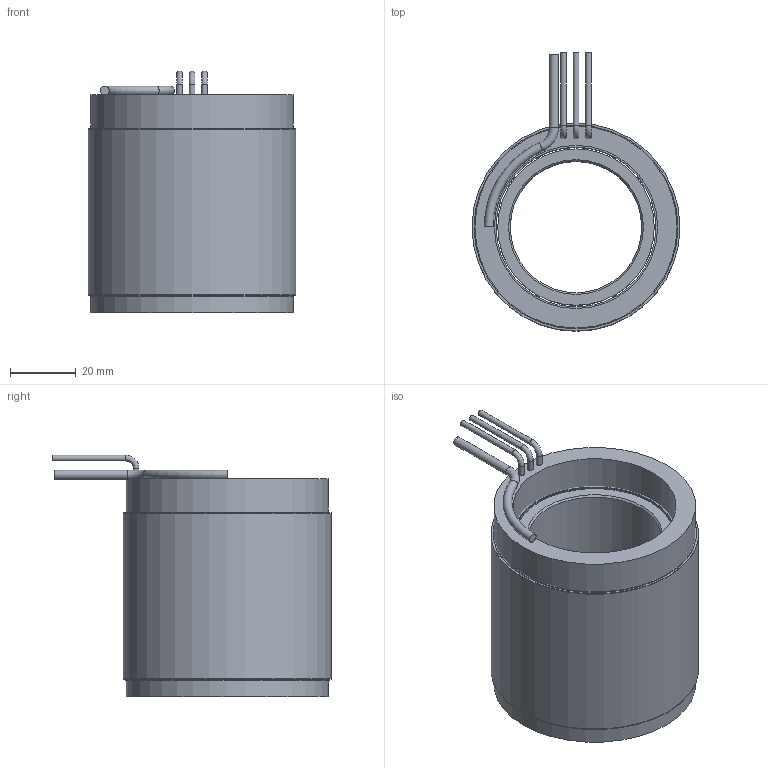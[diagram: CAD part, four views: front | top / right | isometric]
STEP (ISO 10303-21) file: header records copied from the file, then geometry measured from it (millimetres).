
FILE_DESCRIPTION (( 'STEP AP214' ), '1' );
FILE_NAME ('6100391-06.STEP', '2020-12-15T02:42:49', ( '' ), ( '' ), 'SwSTEP 2.0', 'SolidWorks 2016', '' );
FILE_SCHEMA (( 'AUTOMOTIVE_DESIGN' ));
Length unit declared in the file: inch
Products named in the file (10): 4400101-00; 4250379-XX_4250379-06; 4450189-XX_4450189-06; 4150178-XX_4150178-06; 6100391-06; COMP4500558-XX(COIL)_COMP4500558-06(COIL); 4500558-XX_4500558-06; 4600565-00
Assembly tree (10 placements, depth 4):
  6100391-06
    4250379-XX_4250379-06
      4150178-XX_4150178-06
    4500558-XX_4500558-06
      4450189-XX_4450189-06
        4450189-XX_4450189-06
        4400101-00
        4400101-00
        4600565-00  x2
      COMP4500558-XX(COIL)_COMP4500558-06(COIL)
Bounding box: 63.5 x 84.96 x 73.79 mm (x, y, z)
Volume: 163429.5 mm3; surface area: 72030 mm2
Topology: 8 solids, 8 shells, 47 faces, 74 edges, 46 vertices
Faces by surface type: cylinder 21, plane 19, torus 5, cone 2
Full cylindrical faces by diameter (mm): 1.778 x6, 2.72 x1, 40.132 x1, 47.752 x1, 48.768 x5, 49.783 x1, 61.722 x1, 62.23 x2, 63.5 x3
Entity records: 1305 total; most frequent: DIRECTION 202, CARTESIAN_POINT 143, AXIS2_PLACEMENT_3D 101, ORIENTED_EDGE 84, EDGE_LOOP 84, FACE_OUTER_BOUND 67, ADVANCED_FACE 43, EDGE_CURVE 42
